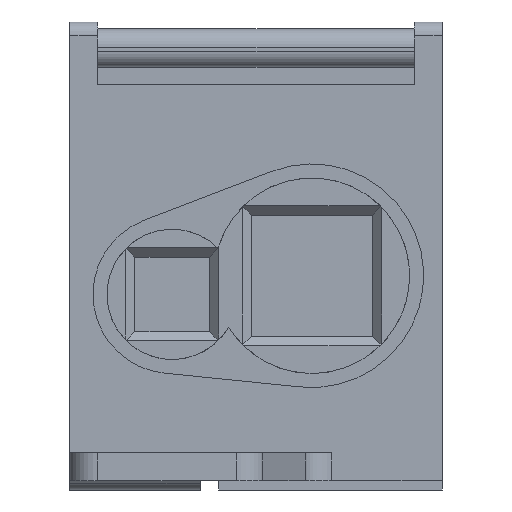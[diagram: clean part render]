
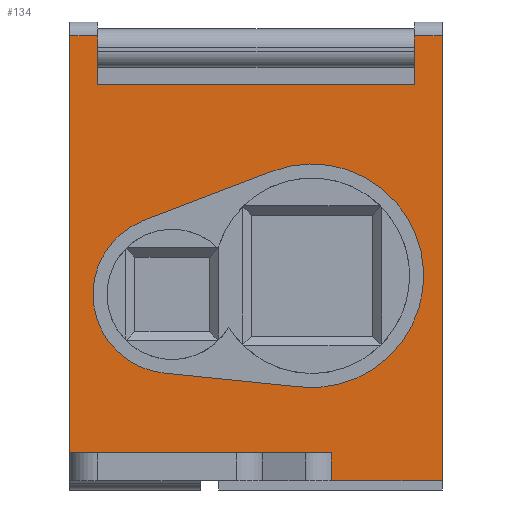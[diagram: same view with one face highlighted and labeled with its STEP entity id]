
A CAD part, front view. The second image highlights one B-rep face of the part: STEP entity #134.
In plain terms, the highlighted planar face has unit normal (0, -1, 0).
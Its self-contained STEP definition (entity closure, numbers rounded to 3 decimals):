
#134=ADVANCED_FACE('',(#2035,#2037),#2039,.F.);
#2035=FACE_BOUND('',#2036,.T.);
#2036=EDGE_LOOP('',(#3592,#3593,#3594,#3595,#3596,#3597,#3598,#3599,#3600,#3601));
#2037=FACE_BOUND('',#2038,.T.);
#2038=EDGE_LOOP('',(#3602,#3603,#3604,#3605));
#2039=PLANE('',#2040);
#2040=AXIS2_PLACEMENT_3D('',#2041,#2042,#2043);
#2041=CARTESIAN_POINT('',(0.,-46.5,41.));
#2042=DIRECTION('',(0.,1.,0.));
#2043=DIRECTION('',(-1.,0.,0.));
#3592=ORIENTED_EDGE('',*,*,#4712,.F.);
#3593=ORIENTED_EDGE('',*,*,#4727,.T.);
#3594=ORIENTED_EDGE('',*,*,#4722,.F.);
#3595=ORIENTED_EDGE('',*,*,#4728,.T.);
#3596=ORIENTED_EDGE('',*,*,#4729,.T.);
#3597=ORIENTED_EDGE('',*,*,#4730,.T.);
#3598=ORIENTED_EDGE('',*,*,#4731,.F.);
#3599=ORIENTED_EDGE('',*,*,#4732,.F.);
#3600=ORIENTED_EDGE('',*,*,#4733,.F.);
#3601=ORIENTED_EDGE('',*,*,#4708,.T.);
#3602=ORIENTED_EDGE('',*,*,#4734,.F.);
#3603=ORIENTED_EDGE('',*,*,#4735,.F.);
#3604=ORIENTED_EDGE('',*,*,#4736,.F.);
#3605=ORIENTED_EDGE('',*,*,#4737,.F.);
#4708=EDGE_CURVE('',#5308,#5306,#5309,.T.);
#4712=EDGE_CURVE('',#5313,#5306,#5315,.T.);
#4722=EDGE_CURVE('',#5331,#5329,#5333,.T.);
#4727=EDGE_CURVE('',#5313,#5329,#5342,.T.);
#4728=EDGE_CURVE('',#5331,#5343,#5344,.T.);
#4729=EDGE_CURVE('',#5343,#5345,#5346,.T.);
#4730=EDGE_CURVE('',#5345,#5347,#5348,.T.);
#4731=EDGE_CURVE('',#5349,#5347,#5350,.T.);
#4732=EDGE_CURVE('',#5351,#5349,#5352,.T.);
#4733=EDGE_CURVE('',#5308,#5351,#5353,.T.);
#4734=EDGE_CURVE('',#5354,#5355,#5356,.T.);
#4735=EDGE_CURVE('',#5357,#5354,#5358,.T.);
#4736=EDGE_CURVE('',#5359,#5357,#5360,.T.);
#4737=EDGE_CURVE('',#5355,#5359,#5361,.T.);
#5306=VERTEX_POINT('',#6331);
#5308=VERTEX_POINT('',#6335);
#5309=LINE('',#6336,#6337);
#5313=VERTEX_POINT('',#6347);
#5315=LINE('',#6351,#6352);
#5329=VERTEX_POINT('',#6381);
#5331=VERTEX_POINT('',#6386);
#5333=LINE('',#6391,#6392);
#5342=LINE('',#6414,#6415);
#5343=VERTEX_POINT('',#6417);
#5344=LINE('',#6418,#6419);
#5345=VERTEX_POINT('',#6421);
#5346=LINE('',#6422,#6423);
#5347=VERTEX_POINT('',#6425);
#5348=LINE('',#6426,#6427);
#5349=VERTEX_POINT('',#6429);
#5350=LINE('',#6430,#6431);
#5351=VERTEX_POINT('',#6433);
#5352=LINE('',#6434,#6435);
#5353=LINE('',#6437,#6438);
#5354=VERTEX_POINT('',#6440);
#5355=VERTEX_POINT('',#6441);
#5356=CIRCLE('',#6442,8.5);
#5357=VERTEX_POINT('',#6446);
#5358=LINE('',#6447,#6448);
#5359=VERTEX_POINT('',#6450);
#5360=CIRCLE('',#6451,12.);
#5361=LINE('',#6455,#6456);
#6331=CARTESIAN_POINT('',(37.,-46.5,36.5));
#6335=CARTESIAN_POINT('',(37.,-46.5,41.741));
#6336=CARTESIAN_POINT('',(37.,-46.5,41.741));
#6337=VECTOR('',#6338,1.);
#6338=DIRECTION('',(0.,0.,-1.));
#6347=CARTESIAN_POINT('',(3.,-46.5,36.5));
#6351=CARTESIAN_POINT('',(3.,-46.5,36.5));
#6352=VECTOR('',#6353,1.);
#6353=DIRECTION('',(1.,0.,0.));
#6381=CARTESIAN_POINT('',(3.,-46.5,41.741));
#6386=CARTESIAN_POINT('',(0.,-46.5,41.741));
#6391=CARTESIAN_POINT('',(0.,-46.5,41.741));
#6392=VECTOR('',#6393,1.);
#6393=DIRECTION('',(1.,0.,0.));
#6414=CARTESIAN_POINT('',(3.,-46.5,36.5));
#6415=VECTOR('',#6416,1.);
#6416=DIRECTION('',(0.,0.,1.));
#6417=CARTESIAN_POINT('',(0.,-46.5,-3.));
#6418=CARTESIAN_POINT('',(0.,-46.5,41.741));
#6419=VECTOR('',#6420,1.);
#6420=DIRECTION('',(0.,0.,-1.));
#6421=CARTESIAN_POINT('',(28.101,-46.5,-3.));
#6422=CARTESIAN_POINT('',(0.,-46.5,-3.));
#6423=VECTOR('',#6424,1.);
#6424=DIRECTION('',(1.,0.,0.));
#6425=CARTESIAN_POINT('',(28.101,-46.5,-6.));
#6426=CARTESIAN_POINT('',(28.101,-46.5,-3.));
#6427=VECTOR('',#6428,1.);
#6428=DIRECTION('',(0.,0.,-1.));
#6429=CARTESIAN_POINT('',(40.,-46.5,-6.));
#6430=CARTESIAN_POINT('',(40.,-46.5,-6.));
#6431=VECTOR('',#6432,1.);
#6432=DIRECTION('',(-1.,0.,0.));
#6433=CARTESIAN_POINT('',(40.,-46.5,41.741));
#6434=CARTESIAN_POINT('',(40.,-46.5,41.741));
#6435=VECTOR('',#6436,1.);
#6436=DIRECTION('',(0.,0.,-1.));
#6437=CARTESIAN_POINT('',(37.,-46.5,41.741));
#6438=VECTOR('',#6439,1.);
#6439=DIRECTION('',(1.,0.,0.));
#6440=CARTESIAN_POINT('',(7.958,-46.5,21.937));
#6441=CARTESIAN_POINT('',(10.144,-46.5,5.543));
#6442=AXIS2_PLACEMENT_3D('',#6443,#6444,#6445);
#6443=CARTESIAN_POINT('',(11.,-46.5,14.));
#6444=DIRECTION('',(0.,-1.,0.));
#6445=DIRECTION('',(-0.358,0.,0.934));
#6446=CARTESIAN_POINT('',(21.706,-46.5,27.205));
#6447=CARTESIAN_POINT('',(21.706,-46.5,27.205));
#6448=VECTOR('',#6449,1.);
#6449=DIRECTION('',(-0.934,0.,-0.358));
#6450=CARTESIAN_POINT('',(24.792,-46.5,4.061));
#6451=AXIS2_PLACEMENT_3D('',#6452,#6453,#6454);
#6452=CARTESIAN_POINT('',(26.,-46.5,16.));
#6453=DIRECTION('',(0.,-1.,0.));
#6454=DIRECTION('',(-0.101,0.,-0.995));
#6455=CARTESIAN_POINT('',(10.144,-46.5,5.543));
#6456=VECTOR('',#6457,1.);
#6457=DIRECTION('',(0.995,0.,-0.101));
